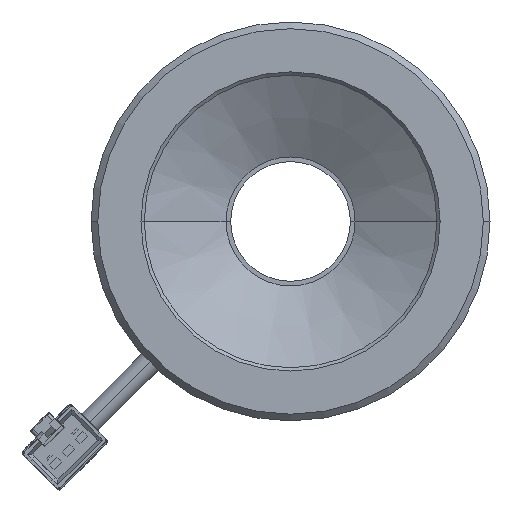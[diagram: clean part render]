
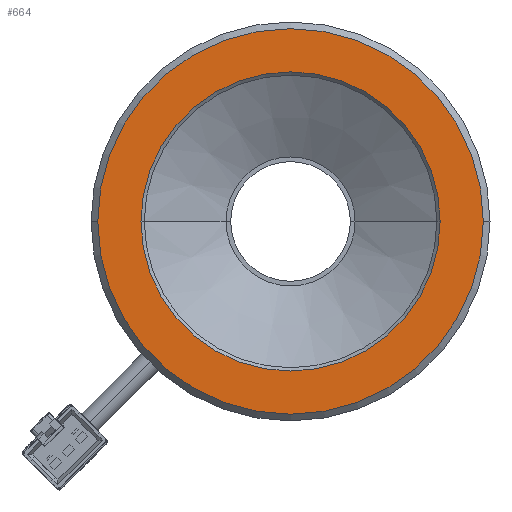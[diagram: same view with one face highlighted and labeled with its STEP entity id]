
A CAD part, front view. The second image highlights one B-rep face of the part: STEP entity #664.
In plain terms, the highlighted planar face has unit normal (0, -1, 0).
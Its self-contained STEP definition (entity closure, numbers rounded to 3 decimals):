
#177=CARTESIAN_POINT('',(0.,-15.,0.));
#178=DIRECTION('',(0.,-1.,0.));
#179=DIRECTION('',(-1.,0.,0.));
#180=AXIS2_PLACEMENT_3D('',#177,#178,#179);
#182=CARTESIAN_POINT('',(0.,-15.,0.));
#183=DIRECTION('',(0.,1.,0.));
#184=DIRECTION('',(-1.,0.,0.));
#185=AXIS2_PLACEMENT_3D('',#182,#183,#184);
#187=CARTESIAN_POINT('',(0.,-15.,0.));
#188=DIRECTION('',(0.,1.,0.));
#189=DIRECTION('',(-1.,0.,0.));
#190=AXIS2_PLACEMENT_3D('',#187,#188,#189);
#200=CARTESIAN_POINT('',(0.,-15.,0.));
#201=DIRECTION('',(0.,-1.,0.));
#202=DIRECTION('',(-1.,0.,0.));
#203=AXIS2_PLACEMENT_3D('',#200,#201,#202);
#343=CARTESIAN_POINT('',(-29.,-15.,0.));
#344=VERTEX_POINT('',#343);
#345=CARTESIAN_POINT('',(-22.5,-15.,0.));
#347=VERTEX_POINT('',#345);
#365=CARTESIAN_POINT('',(29.,-15.,0.));
#366=VERTEX_POINT('',#365);
#367=CARTESIAN_POINT('',(22.5,-15.,0.));
#369=VERTEX_POINT('',#367);
#649=CARTESIAN_POINT('',(0.,-15.,0.));
#650=DIRECTION('',(0.,1.,0.));
#651=DIRECTION('',(1.,0.,0.));
#652=AXIS2_PLACEMENT_3D('',#649,#650,#651);
#653=PLANE('',#652);
#654=ORIENTED_EDGE('',*,*,#642,.F.);
#655=ORIENTED_EDGE('',*,*,#631,.T.);
#656=EDGE_LOOP('',(#654,#655));
#657=FACE_OUTER_BOUND('',#656,.F.);
#659=ORIENTED_EDGE('',*,*,#658,.F.);
#661=ORIENTED_EDGE('',*,*,#660,.T.);
#662=EDGE_LOOP('',(#659,#661));
#663=FACE_BOUND('',#662,.F.);
#664=ADVANCED_FACE('',(#657,#663),#653,.F.);
#181=CIRCLE('',#180,29.);
#186=CIRCLE('',#185,29.);
#191=CIRCLE('',#190,22.5);
#204=CIRCLE('',#203,22.5);
#631=EDGE_CURVE('',#344,#366,#186,.T.);
#642=EDGE_CURVE('',#344,#366,#181,.T.);
#658=EDGE_CURVE('',#347,#369,#191,.T.);
#660=EDGE_CURVE('',#347,#369,#204,.T.);
